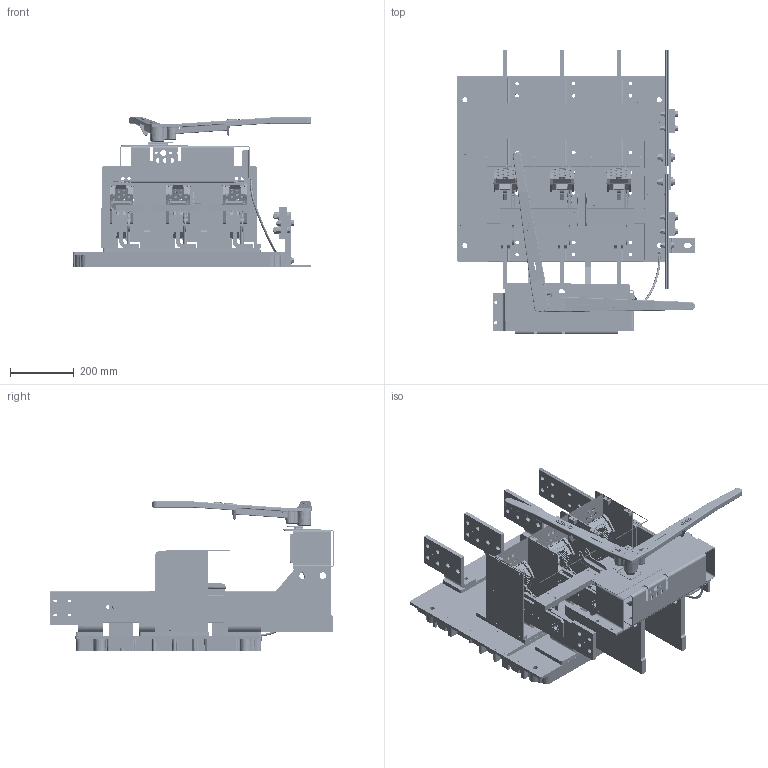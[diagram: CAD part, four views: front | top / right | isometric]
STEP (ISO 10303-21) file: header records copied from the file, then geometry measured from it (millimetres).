
FILE_DESCRIPTION(/* description */ (''),/* implementation_level */ '2;1');
FILE_NAME(/* name */ 'H:\switches\3d-templates\catalog-switches-iges-files\CATALOG-VLB4410N.stp',/* time_stamp */ '2022-03-15T10:05:02-05:00',/* author */ ('MKingston'),/* organization */ (''),/* preprocessor_version */ 'ST-DEVELOPER v18.1',/* originating_system */ 'Autodesk Inventor 2022',/* authorisation */ '');
FILE_SCHEMA (('AUTOMOTIVE_DESIGN { 1 0 10303 214 3 1 1 }'));
Products named in the file (73): catalog-vlb3410; 277-bf; 669-DB; 669-EB; 669-cb; CATALOG-57-qj-arc-chute-assy; 50-QLX; 50-QRX; 363-da; 363-da_MIR; 57-QJT; 57-QJB; 57-QJS; 57-QJSB; 57-QJST; ANSI B18.6.3 - 8-32 UNC - 3; ANSI B18.2.2 - 8 - 32; ANSI B18.6.4 - No. 8 - 32 - 3/8; CATALOG-2000amp-blade-assy; 69-AL; 69-AR; 67-fc3; 69-gc3; 67-j; 69-M; ANSI/ASME B18.7 - T 0.252 x 17/32; ANSI/ASME B18.7 - T 0.188 x 17/32; 235-b; vlb-interpole-right-side-assy; vlb-interpole-assy; 256-b; 178-b; 178-c; 256-d; 256-c; 230-a; 246-f; 820-bw1; 820-fw3; 221-RP,R3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
Assembly tree (159 placements, depth 4):
  catalog-vlb3410
    277-bf
    669-DB  x3
    669-EB  x3
    669-cb  x3
    CATALOG-57-qj-arc-chute-assy  x3
      50-QLX
      50-QRX
      363-da
      363-da_MIR
      57-QJT
      57-QJB
      57-QJS
      57-QJSB
      57-QJST
      ANSI B18.6.3 - 8-32 UNC - 3
      ANSI B18.2.2 - 8 - 32
      ANSI B18.6.4 - No. 8 - 32 - 3/8
    CATALOG-2000amp-blade-assy  x3
      69-AL
      69-AR
      67-fc3
      69-gc3
      67-j
      69-M
      ANSI/ASME B18.7 - T 0.252 x 17/32
      ANSI/ASME B18.7 - T 0.188 x 17/32
    235-b
    vlb-interpole-right-side-assy  x2
      256-b
      178-b
      178-c
    vlb-interpole-assy  x2
      256-b
      178-b
      178-c
    256-d
    256-c
    230-a
    246-f  x2
    820-bw1
    820-fw3
    221-RP,R3
    2000-VLB-NEUTRAL-NO-GFI
      675-a  x2
      677-d  x2
      676-R  x4
      678-r
      675-ef  x2
      Bolted Connection
        ASTM F436 - 1/2, CW  x8
        ANSI B18.2.1 - 1/2-13 UNC - 2, HCSI  x4
        ASME B18.21.1 - 1/2, RHSLW  x4
        AS 2465 - 1/2  UNC  x4
      Bolted Connection_1
        ASTM F436 - 3/8, CW  x4
        ANSI B18.2.1 - 3/8-16 UNC - 2, HCSI  x4
        ANSI B18.22.1 - 3/8 - narrow - Type A  x4
        ANSI B18.21.1 - 0.375  x4
        ANSI B18.2.2 - 3/8 - 16, HNI  x4
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Bounding box: 747.63 x 890.28 x 467.84 mm (x, y, z)
Volume: 20928547.3 mm3; surface area: 4772104.5 mm2
Topology: 220 solids, 222 shells, 6923 faces, 17544 edges, 11398 vertices
Faces by surface type: plane 3427, cylinder 1714, cone 1094, bspline 451, torus 193, sphere 44
Full cylindrical faces by diameter (mm): 1.702 x8, 3.175 x4, 3.302 x8, 3.454 x4, 3.683 x8, 3.759 x12, 3.962 x4, 4.166 x26, 4.305 x42, 4.496 x24, 4.762 x4, 4.775 x11, 4.801 x8, 4.902 x14, 4.915 x24, 4.978 x3, 5.08 x2, 5.537 x2, 5.556 x3, 5.791 x6, 6.35 x43, 6.401 x9, 6.528 x66, 6.858 x18, 7.144 x12, 7.798 x11, 7.938 x21, 8.077 x3, 8.179 x1, 8.331 x2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
Entity records: 115824 total; most frequent: CARTESIAN_POINT 29284, ORIENTED_EDGE 17392, DIRECTION 17326, EDGE_CURVE 8707, AXIS2_PLACEMENT_3D 6204, VERTEX_POINT 5694, LINE 4918, VECTOR 4918
